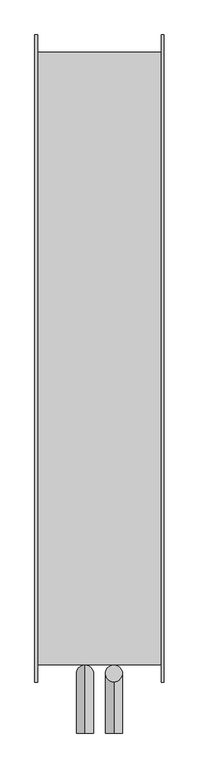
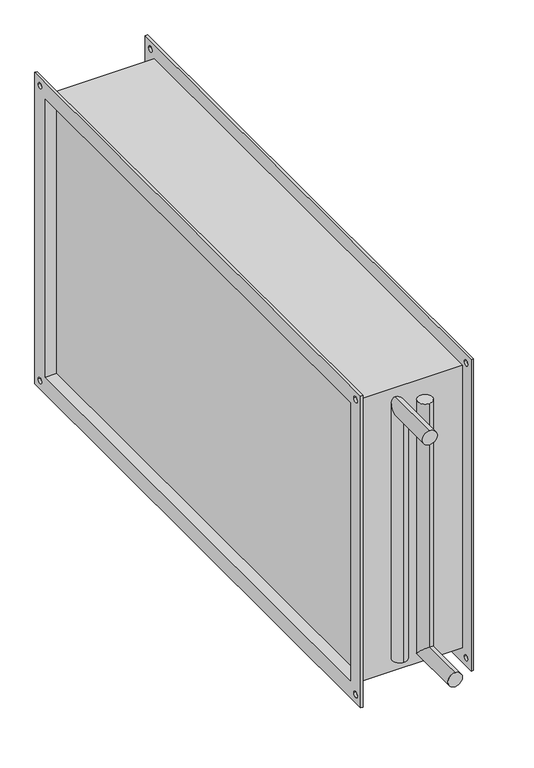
"""IFC4 building model written with IfcOpenShell, lengths in millimetres: proxy geometry, СВ_ВоздухонагревательВодяной_КанальныйПрямоугольный_200-1000_SPH-W : SPH-W-900x500/3."""

from ifc_helpers import new_model, si_unit, frame, origin, place, context, project, spatial, polyline, circle_curve, ellipse_curve, source, transform, mapped, element, save
from ifc_brep_helpers import plane_surface, cylinder_surface, revolved_surface, advanced_brep


def mechanical_equipment_e328bcd5(model_context):
    return source(origin(), model_context, "Body", "AdvancedBrep", [
        advanced_brep(
        [(21.5, -454.0, 225.0), (21.5, -479.0, 225.0), (21.5, -454.0, -237.5), (21.5, -479.0, -212.5), (21.5, -555.0, -237.5), (21.5, -555.0, -212.5)],
        [
            (0, 1, circle_curve(frame((21.5, -466.5, 225.0), z_axis=(0.0, 0.0, 1.0), x_axis=(0.0, -1.0, 0.0)), 12.5)),
            (1, 0, circle_curve(frame((21.5, -466.5, 225.0), z_axis=(0.0, 0.0, 1.0), x_axis=(0.0, -1.0, 0.0)), 12.5)),
            (0, 2),
            (2, 3, ellipse_curve(frame((21.5, -466.5, -225.0), z_axis=(0.0, 0.7071067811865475, 0.7071067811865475), x_axis=(0.0, -0.7071067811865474, 0.7071067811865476)), 17.6776695, 12.5)),
            (3, 1),
            (3, 2, ellipse_curve(frame((21.5, -466.5, -225.0), z_axis=(0.0, 0.7071067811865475, 0.7071067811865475), x_axis=(0.0, -0.7071067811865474, 0.7071067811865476)), 17.6776695, 12.5)),
            (4, 5, circle_curve(frame((21.5, -555.0, -225.0), z_axis=(0.0, -1.0, 0.0), x_axis=(0.0, 0.0, 1.0)), 12.5)),
            (5, 4, circle_curve(frame((21.5, -555.0, -225.0), z_axis=(0.0, -1.0, 0.0), x_axis=(0.0, 0.0, 1.0)), 12.5)),
            (2, 4),
            (5, 3),
        ],
        [
            plane_surface(frame((21.5, -466.5, 225.0), z_axis=(0.0, 0.0, 1.0), x_axis=(-1.0, 0.0, 0.0))),
            cylinder_surface(frame((21.5, -466.5, 225.0), z_axis=(0.0, 0.0, 1.0), x_axis=(0.0, -1.0, 0.0)), 12.5),
            plane_surface(frame((21.5, -555.0, -225.0), z_axis=(0.0, -1.0, 0.0), x_axis=(-1.0, 0.0, 0.0))),
            cylinder_surface(frame((21.5, -466.5, -225.0), z_axis=(0.0, 1.0, 0.0), x_axis=(0.0, 0.0, 1.0)), 12.5),
        ],
        [
            (0, [[1, 2]]),
            (1, [[-1, 3, 4, 5]]),
            (1, [[-2, -5, 6, -3]]),
            (2, [[7, 8]]),
            (3, [[-4, 9, -8, 10]]),
            (3, [[-6, -10, -7, -9]]),
        ],
    ),
        advanced_brep(
        [(-21.5, -454.0, -225.0), (-21.5, -479.0, -225.0), (-21.5, -454.0, 237.5), (-21.5, -479.0, 212.5), (-21.5, -555.0, 237.5), (-21.5, -555.0, 212.5)],
        [
            (0, 1, circle_curve(frame((-21.5, -466.5, -225.0), z_axis=(0.0, 0.0, -1.0), x_axis=(0.0, -1.0, 0.0)), 12.5)),
            (1, 0, circle_curve(frame((-21.5, -466.5, -225.0), z_axis=(0.0, 0.0, -1.0), x_axis=(0.0, -1.0, 0.0)), 12.5)),
            (0, 2),
            (2, 3, ellipse_curve(frame((-21.5, -466.5, 225.0), z_axis=(0.0, 0.7071067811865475, -0.7071067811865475), x_axis=(0.0, -0.7071067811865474, -0.7071067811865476)), 17.6776695, 12.5)),
            (3, 1),
            (3, 2, ellipse_curve(frame((-21.5, -466.5, 225.0), z_axis=(0.0, 0.7071067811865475, -0.7071067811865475), x_axis=(0.0, -0.7071067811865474, -0.7071067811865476)), 17.6776695, 12.5)),
            (4, 5, circle_curve(frame((-21.5, -555.0, 225.0), z_axis=(0.0, -1.0, 0.0), x_axis=(0.0, 0.0, -1.0)), 12.5)),
            (5, 4, circle_curve(frame((-21.5, -555.0, 225.0), z_axis=(0.0, -1.0, 0.0), x_axis=(0.0, 0.0, -1.0)), 12.5)),
            (2, 4),
            (5, 3),
        ],
        [
            plane_surface(frame((-21.5, -466.5, -225.0), z_axis=(0.0, 0.0, -1.0), x_axis=(1.0, 0.0, 0.0))),
            cylinder_surface(frame((-21.5, -466.5, -225.0), z_axis=(0.0, 0.0, -1.0), x_axis=(0.0, -1.0, 0.0)), 12.5),
            plane_surface(frame((-21.5, -555.0, 225.0), z_axis=(0.0, -1.0, 0.0), x_axis=(1.0, 0.0, 0.0))),
            cylinder_surface(frame((-21.5, -466.5, 225.0), z_axis=(0.0, 1.0, 0.0), x_axis=(0.0, 0.0, -1.0)), 12.5),
        ],
        [
            (0, [[1, 2]]),
            (1, [[-1, 3, 4, 5]]),
            (1, [[-2, -5, 6, -3]]),
            (2, [[7, 8]]),
            (3, [[-4, 9, -8, 10]]),
            (3, [[-6, -10, -7, -9]]),
        ],
    ),
        advanced_brep(
        [(-92.0, -454.0, 254.0), (-92.0, -454.0, -254.0), (92.0, -454.0, -254.0), (92.0, -454.0, 254.0), (-92.0, 454.0, -254.0), (92.0, 454.0, -254.0), (-92.0, 454.0, 254.0), (92.0, 454.0, 254.0), (76.0, 450.0, -250.0), (76.0, 450.0, 250.0), (76.0, -450.0, 250.0), (76.0, -450.0, -250.0), (-76.0, -450.0, 250.0), (-76.0, 450.0, 250.0), (-76.0, 450.0, -250.0), (-76.0, -450.0, -250.0), (-96.0, -480.0, 280.0), (-96.0, 480.0, 280.0), (-96.0, 480.0, -280.0), (-96.0, -480.0, -280.0), (-96.0, -450.0, 250.0), (-96.0, -450.0, -250.0), (-96.0, 450.0, -250.0), (-96.0, 450.0, 250.0), (-96.0, 460.0, 265.0), (-96.0, 470.0, 265.0), (-96.0, -470.0, 265.0), (-96.0, -460.0, 265.0), (-96.0, -470.0, -265.0), (-96.0, -460.0, -265.0), (-96.0, 460.0, -265.0), (-96.0, 470.0, -265.0), (-92.0, -480.0, 280.0), (-92.0, -480.0, -280.0), (-92.0, 480.0, -280.0), (-92.0, 480.0, 280.0), (-92.0, 470.0, 265.0), (-92.0, 460.0, 265.0), (-92.0, -460.0, 265.0), (-92.0, -470.0, 265.0), (-92.0, -460.0, -265.0), (-92.0, -470.0, -265.0), (-92.0, 470.0, -265.0), (-92.0, 460.0, -265.0), (92.0, 480.0, 280.0), (92.0, 480.0, -280.0), (92.0, -480.0, -280.0), (92.0, -480.0, 280.0), (92.0, 460.0, 265.0), (92.0, 470.0, 265.0), (92.0, -470.0, 265.0), (92.0, -460.0, 265.0), (92.0, -470.0, -265.0), (92.0, -460.0, -265.0), (92.0, 460.0, -265.0), (92.0, 470.0, -265.0), (96.0, 480.0, 280.0), (96.0, -480.0, 280.0), (96.0, -480.0, -280.0), (96.0, 480.0, -280.0), (96.0, 450.0, 250.0), (96.0, 450.0, -250.0), (96.0, -450.0, -250.0), (96.0, -450.0, 250.0), (96.0, 470.0, 265.0), (96.0, 460.0, 265.0), (96.0, -460.0, 265.0), (96.0, -470.0, 265.0), (96.0, -460.0, -265.0), (96.0, -470.0, -265.0), (96.0, 470.0, -265.0), (96.0, 460.0, -265.0)],
        [
            (0, 1),
            (1, 2),
            (2, 3),
            (3, 0),
            (1, 4),
            (4, 5),
            (5, 2),
            (4, 6),
            (6, 7),
            (7, 5),
            (6, 0),
            (3, 7),
            (8, 9),
            (9, 10),
            (10, 11),
            (11, 8),
            (12, 13),
            (13, 14),
            (14, 15),
            (15, 12),
            (16, 17),
            (17, 18),
            (18, 19),
            (19, 16),
            (20, 21),
            (21, 22),
            (22, 23),
            (23, 20),
            (24, 25, circle_curve(frame((-96.0, 465.0, 265.0), z_axis=(1.0, 0.0, 0.0), x_axis=(0.0, -1.0, 0.0)), 5.0)),
            (25, 24, circle_curve(frame((-96.0, 465.0, 265.0), z_axis=(1.0, 0.0, 0.0), x_axis=(0.0, -1.0, 0.0)), 5.0)),
            (26, 27, circle_curve(frame((-96.0, -465.0, 265.0), z_axis=(1.0, 0.0, 0.0), x_axis=(0.0, -1.0, 0.0)), 5.0)),
            (27, 26, circle_curve(frame((-96.0, -465.0, 265.0), z_axis=(1.0, 0.0, 0.0), x_axis=(0.0, -1.0, 0.0)), 5.0)),
            (28, 29, circle_curve(frame((-96.0, -465.0, -265.0), z_axis=(1.0, 0.0, 0.0), x_axis=(0.0, -1.0, 0.0)), 5.0)),
            (29, 28, circle_curve(frame((-96.0, -465.0, -265.0), z_axis=(1.0, 0.0, 0.0), x_axis=(0.0, -1.0, 0.0)), 5.0)),
            (30, 31, circle_curve(frame((-96.0, 465.0, -265.0), z_axis=(1.0, 0.0, 0.0), x_axis=(0.0, -1.0, 0.0)), 5.0)),
            (31, 30, circle_curve(frame((-96.0, 465.0, -265.0), z_axis=(1.0, 0.0, 0.0), x_axis=(0.0, -1.0, 0.0)), 5.0)),
            (32, 33),
            (33, 34),
            (34, 35),
            (35, 32),
            (36, 37, circle_curve(frame((-92.0, 465.0, 265.0), z_axis=(-1.0, 0.0, 0.0), x_axis=(0.0, -1.0, 0.0)), 5.0)),
            (37, 36, circle_curve(frame((-92.0, 465.0, 265.0), z_axis=(-1.0, 0.0, 0.0), x_axis=(0.0, -1.0, 0.0)), 5.0)),
            (38, 39, circle_curve(frame((-92.0, -465.0, 265.0), z_axis=(-1.0, 0.0, 0.0), x_axis=(0.0, -1.0, 0.0)), 5.0)),
            (39, 38, circle_curve(frame((-92.0, -465.0, 265.0), z_axis=(-1.0, 0.0, 0.0), x_axis=(0.0, -1.0, 0.0)), 5.0)),
            (40, 41, circle_curve(frame((-92.0, -465.0, -265.0), z_axis=(-1.0, 0.0, 0.0), x_axis=(0.0, -1.0, 0.0)), 5.0)),
            (41, 40, circle_curve(frame((-92.0, -465.0, -265.0), z_axis=(-1.0, 0.0, 0.0), x_axis=(0.0, -1.0, 0.0)), 5.0)),
            (42, 43, circle_curve(frame((-92.0, 465.0, -265.0), z_axis=(-1.0, 0.0, 0.0), x_axis=(0.0, -1.0, 0.0)), 5.0)),
            (43, 42, circle_curve(frame((-92.0, 465.0, -265.0), z_axis=(-1.0, 0.0, 0.0), x_axis=(0.0, -1.0, 0.0)), 5.0)),
            (19, 33),
            (32, 16),
            (18, 34),
            (17, 35),
            (44, 45),
            (45, 46),
            (46, 47),
            (47, 44),
            (48, 49, circle_curve(frame((92.0, 465.0, 265.0), z_axis=(1.0, 0.0, 0.0), x_axis=(0.0, -1.0, 0.0)), 5.0)),
            (49, 48, circle_curve(frame((92.0, 465.0, 265.0), z_axis=(1.0, 0.0, 0.0), x_axis=(0.0, -1.0, 0.0)), 5.0)),
            (50, 51, circle_curve(frame((92.0, -465.0, 265.0), z_axis=(1.0, 0.0, 0.0), x_axis=(0.0, -1.0, 0.0)), 5.0)),
            (51, 50, circle_curve(frame((92.0, -465.0, 265.0), z_axis=(1.0, 0.0, 0.0), x_axis=(0.0, -1.0, 0.0)), 5.0)),
            (52, 53, circle_curve(frame((92.0, -465.0, -265.0), z_axis=(1.0, 0.0, 0.0), x_axis=(0.0, -1.0, 0.0)), 5.0)),
            (53, 52, circle_curve(frame((92.0, -465.0, -265.0), z_axis=(1.0, 0.0, 0.0), x_axis=(0.0, -1.0, 0.0)), 5.0)),
            (54, 55, circle_curve(frame((92.0, 465.0, -265.0), z_axis=(1.0, 0.0, 0.0), x_axis=(0.0, -1.0, 0.0)), 5.0)),
            (55, 54, circle_curve(frame((92.0, 465.0, -265.0), z_axis=(1.0, 0.0, 0.0), x_axis=(0.0, -1.0, 0.0)), 5.0)),
            (56, 57),
            (57, 58),
            (58, 59),
            (59, 56),
            (60, 61),
            (61, 62),
            (62, 63),
            (63, 60),
            (64, 65, circle_curve(frame((96.0, 465.0, 265.0), z_axis=(-1.0, 0.0, 0.0), x_axis=(0.0, -1.0, 0.0)), 5.0)),
            (65, 64, circle_curve(frame((96.0, 465.0, 265.0), z_axis=(-1.0, 0.0, 0.0), x_axis=(0.0, -1.0, 0.0)), 5.0)),
            (66, 67, circle_curve(frame((96.0, -465.0, 265.0), z_axis=(-1.0, 0.0, 0.0), x_axis=(0.0, -1.0, 0.0)), 5.0)),
            (67, 66, circle_curve(frame((96.0, -465.0, 265.0), z_axis=(-1.0, 0.0, 0.0), x_axis=(0.0, -1.0, 0.0)), 5.0)),
            (68, 69, circle_curve(frame((96.0, -465.0, -265.0), z_axis=(-1.0, 0.0, 0.0), x_axis=(0.0, -1.0, 0.0)), 5.0)),
            (69, 68, circle_curve(frame((96.0, -465.0, -265.0), z_axis=(-1.0, 0.0, 0.0), x_axis=(0.0, -1.0, 0.0)), 5.0)),
            (70, 71, circle_curve(frame((96.0, 465.0, -265.0), z_axis=(-1.0, 0.0, 0.0), x_axis=(0.0, -1.0, 0.0)), 5.0)),
            (71, 70, circle_curve(frame((96.0, 465.0, -265.0), z_axis=(-1.0, 0.0, 0.0), x_axis=(0.0, -1.0, 0.0)), 5.0)),
            (47, 57),
            (56, 44),
            (46, 58),
            (45, 59),
            (23, 13),
            (12, 20),
            (22, 14),
            (21, 15),
            (60, 9),
            (8, 61),
            (11, 62),
            (10, 63),
            (36, 25),
            (24, 37),
            (64, 49),
            (48, 65),
            (38, 27),
            (26, 39),
            (66, 51),
            (50, 67),
            (40, 29),
            (28, 41),
            (68, 53),
            (52, 69),
            (42, 31),
            (30, 43),
            (70, 55),
            (54, 71),
        ],
        [
            plane_surface(frame((-76.0, -454.0, 254.0), z_axis=(0.0, -1.0, 0.0), x_axis=(-1.0, 0.0, 0.0))),
            plane_surface(frame((-76.0, -454.0, -254.0), z_axis=(0.0, 0.0, -1.0), x_axis=(-1.0, 0.0, 0.0))),
            plane_surface(frame((-76.0, 454.0, -254.0), z_axis=(0.0, 1.0, 0.0), x_axis=(-1.0, 0.0, 0.0))),
            plane_surface(frame((-76.0, 454.0, 254.0), z_axis=(0.0, 0.0, 1.0), x_axis=(-1.0, 0.0, 0.0))),
            plane_surface(frame((76.0, -454.0, 254.0), z_axis=(1.0, 0.0, 0.0), x_axis=(0.0, 0.0, -1.0))),
            plane_surface(frame((-76.0, -454.0, 254.0), z_axis=(-1.0, 0.0, 0.0), x_axis=(0.0, 0.0, 1.0))),
            plane_surface(frame((-96.0, -480.0, 280.0), z_axis=(-1.0, 0.0, 0.0), x_axis=(0.0, 0.0, 1.0))),
            plane_surface(frame((-92.0, -480.0, 280.0), z_axis=(1.0, 0.0, 0.0), x_axis=(0.0, 0.0, -1.0))),
            plane_surface(frame((-92.0, -480.0, 280.0), z_axis=(0.0, -1.0, 0.0), x_axis=(-1.0, 0.0, 0.0))),
            plane_surface(frame((-92.0, -480.0, -280.0), z_axis=(0.0, 0.0, -1.0), x_axis=(-1.0, 0.0, 0.0))),
            plane_surface(frame((-92.0, 480.0, -280.0), z_axis=(0.0, 1.0, 0.0), x_axis=(-1.0, 0.0, 0.0))),
            plane_surface(frame((-92.0, 480.0, 280.0), z_axis=(0.0, 0.0, 1.0), x_axis=(-1.0, 0.0, 0.0))),
            plane_surface(frame((92.0, 450.0, -250.0), z_axis=(-1.0, 0.0, 0.0), x_axis=(0.0, 0.0, 1.0))),
            plane_surface(frame((96.0, 450.0, -250.0), z_axis=(1.0, 0.0, 0.0), x_axis=(0.0, 0.0, -1.0))),
            plane_surface(frame((96.0, 480.0, 280.0), z_axis=(0.0, 0.0, 1.0), x_axis=(-1.0, 0.0, 0.0))),
            plane_surface(frame((96.0, -480.0, 280.0), z_axis=(0.0, -1.0, 0.0), x_axis=(-1.0, 0.0, 0.0))),
            plane_surface(frame((96.0, -480.0, -280.0), z_axis=(0.0, 0.0, -1.0), x_axis=(-1.0, 0.0, 0.0))),
            plane_surface(frame((96.0, 480.0, -280.0), z_axis=(0.0, 1.0, 0.0), x_axis=(-1.0, 0.0, 0.0))),
            plane_surface(frame((-92.0, -450.0, 250.0), z_axis=(0.0, 0.0, -1.0), x_axis=(-1.0, 0.0, 0.0))),
            plane_surface(frame((-92.0, 450.0, 250.0), z_axis=(0.0, -1.0, 0.0), x_axis=(-1.0, 0.0, 0.0))),
            plane_surface(frame((-92.0, 450.0, -250.0), z_axis=(0.0, 0.0, 1.0), x_axis=(-1.0, 0.0, 0.0))),
            plane_surface(frame((-92.0, -450.0, -250.0), z_axis=(0.0, 1.0, 0.0), x_axis=(-1.0, 0.0, 0.0))),
            plane_surface(frame((96.0, 450.0, 250.0), z_axis=(0.0, -1.0, 0.0), x_axis=(-1.0, 0.0, 0.0))),
            plane_surface(frame((96.0, 450.0, -250.0), z_axis=(0.0, 0.0, 1.0), x_axis=(-1.0, 0.0, 0.0))),
            plane_surface(frame((96.0, -450.0, -250.0), z_axis=(0.0, 1.0, 0.0), x_axis=(-1.0, 0.0, 0.0))),
            plane_surface(frame((96.0, -450.0, 250.0), z_axis=(0.0, 0.0, -1.0), x_axis=(-1.0, 0.0, 0.0))),
            revolved_surface(polyline([(-96.0, 460.0, 265.0), (-92.0, 460.0, 265.0)]), (96.0, 465.0, 265.0), (-1.0, 0.0, 0.0)),
            revolved_surface(polyline([(92.0, 460.0, 265.0), (96.0, 460.0, 265.0)]), (96.0, 465.0, 265.0), (-1.0, 0.0, 0.0)),
            revolved_surface(polyline([(-96.0, -470.0, 265.0), (-92.0, -470.0, 265.0)]), (21.5, -465.0, 265.0), (-1.0, 0.0, 0.0)),
            revolved_surface(polyline([(92.0, -470.0, 265.0), (96.0, -470.0, 265.0)]), (21.5, -465.0, 265.0), (-1.0, 0.0, 0.0)),
            revolved_surface(polyline([(-96.0, -470.0, -265.0), (-92.0, -470.0, -265.0)]), (21.5, -465.0, -265.0), (-1.0, 0.0, 0.0)),
            revolved_surface(polyline([(92.0, -470.0, -265.0), (96.0, -470.0, -265.0)]), (21.5, -465.0, -265.0), (-1.0, 0.0, 0.0)),
            revolved_surface(polyline([(-96.0, 460.0, -265.0), (-92.0, 460.0, -265.0)]), (21.5, 465.0, -265.0), (-1.0, 0.0, 0.0)),
            revolved_surface(polyline([(92.0, 460.0, -265.0), (96.0, 460.0, -265.0)]), (21.5, 465.0, -265.0), (-1.0, 0.0, 0.0)),
        ],
        [
            (0, [[1, 2, 3, 4]]),
            (1, [[-2, 5, 6, 7]]),
            (2, [[-6, 8, 9, 10]]),
            (3, [[-9, 11, -4, 12]]),
            (4, [[13, 14, 15, 16]]),
            (5, [[17, 18, 19, 20]]),
            (6, [[21, 22, 23, 24], [25, 26, 27, 28], [29, 30], [31, 32], [33, 34], [35, 36]]),
            (7, [[37, 38, 39, 40], [-1, -11, -8, -5], [41, 42], [43, 44], [45, 46], [47, 48]]),
            (8, [[-24, 49, -37, 50]]),
            (9, [[-23, 51, -38, -49]]),
            (10, [[-22, 52, -39, -51]]),
            (11, [[-21, -50, -40, -52]]),
            (12, [[53, 54, 55, 56], [-3, -7, -10, -12], [57, 58], [59, 60], [61, 62], [63, 64]]),
            (13, [[65, 66, 67, 68], [69, 70, 71, 72], [73, 74], [75, 76], [77, 78], [79, 80]]),
            (14, [[-56, 81, -65, 82]]),
            (15, [[-55, 83, -66, -81]]),
            (16, [[-54, 84, -67, -83]]),
            (17, [[-53, -82, -68, -84]]),
            (18, [[-28, 85, -17, 86]]),
            (19, [[-27, 87, -18, -85]]),
            (20, [[-26, 88, -19, -87]]),
            (21, [[-25, -86, -20, -88]]),
            (22, [[-69, 89, -13, 90]]),
            (23, [[-70, -90, -16, 91]]),
            (24, [[-71, -91, -15, 92]]),
            (25, [[-89, -72, -92, -14]]),
            (26, [[93, -29, 94, -41]]),
            (27, [[95, -57, 96, -73]]),
            (26, [[-93, -42, -94, -30]]),
            (27, [[-95, -74, -96, -58]]),
            (28, [[97, -31, 98, -43]]),
            (29, [[99, -59, 100, -75]]),
            (28, [[-97, -44, -98, -32]]),
            (29, [[-99, -76, -100, -60]]),
            (30, [[101, -33, 102, -45]]),
            (31, [[103, -61, 104, -77]]),
            (30, [[-101, -46, -102, -34]]),
            (31, [[-103, -78, -104, -62]]),
            (32, [[105, -35, 106, -47]]),
            (33, [[107, -63, 108, -79]]),
            (32, [[-105, -48, -106, -36]]),
            (33, [[-107, -80, -108, -64]]),
        ],
    ),
    ])


if __name__ == "__main__":
    model = new_model("IFC4")
    model_context = context("Model", 3, world=origin())
    ifc_project = project(units=[si_unit("LENGTHUNIT", "METRE", prefix="MILLI")], contexts=[model_context])
    site = spatial("IfcSite", under=ifc_project)
    building = spatial("IfcBuilding", under=site)
    placement = place(None, origin())
    mechanical_equipment_shape = mechanical_equipment_e328bcd5(model_context)
    element("IfcBuildingElementProxy", 1, Name="СВ_ВоздухонагревательВодяной_КанальныйПрямоугольный_200-1000_SPH-W : SPH-W-900x500/3", ObjectType="СВ_ВоздухонагревательВодяной_КанальныйПрямоугольный_200-1000_SPH-W : SPH-W-900x500/3", at=placement, inside=building, context=model_context, shape_type="MappedRepresentation", body=[
        mapped(mechanical_equipment_shape, transform((0.0, 0.0, 0.0), x_axis=(1.0, 0.0, 0.0), y_axis=(0.0, 1.0, 0.0), z_axis=(0.0, 0.0, 1.0))),
    ])
    save(model, "model.ifc")
